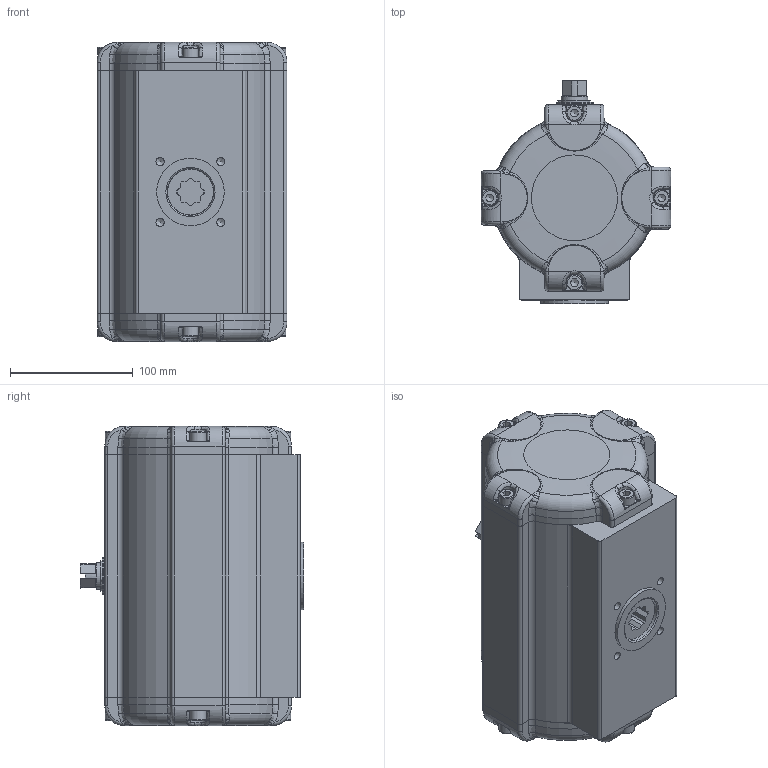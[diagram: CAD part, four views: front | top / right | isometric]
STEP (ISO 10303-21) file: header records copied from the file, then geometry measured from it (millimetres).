
FILE_DESCRIPTION((''),'2;1');
FILE_NAME('C:\Dokumente und Einstellungen\ko-p\Desktop\SAD_25-135°_BR03.stp','2011-02-02T09:04:58',('war'),(''),'Autodesk Inventor 2010','Autodesk Inventor 2010','');
FILE_SCHEMA(('AUTOMOTIVE_DESIGN { 1 0 10303 214 1 1 1 1 }'));
Length unit declared in the file: millimetre
Products named in the file (1): ENG-038425_Konturvereinfachung_2
Bounding box: 154.5 x 182 x 243.6 mm (x, y, z)
Surface area: 225203.2 mm2 (no closed solid volume)
Topology: 0 solids, 29 shells, 488 faces, 1525 edges, 1054 vertices
Faces by surface type: plane 170, bspline 142, cylinder 103, torus 49, cone 24
Full cylindrical faces by diameter (mm): 13 x8, 20 x1, 21.8 x1, 27 x1, 30 x2, 55 x1, 119 x1
Entity records: 20686 total; most frequent: CARTESIAN_POINT 7948, ORIENTED_EDGE 2459, DIRECTION 2311, EDGE_CURVE 1418, VERTEX_POINT 1011, AXIS2_PLACEMENT_3D 890, EDGE_LOOP 597, VECTOR 531
